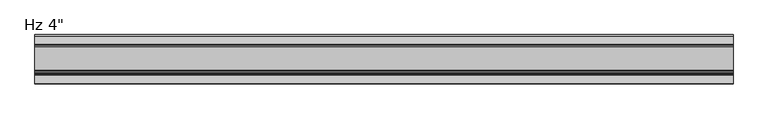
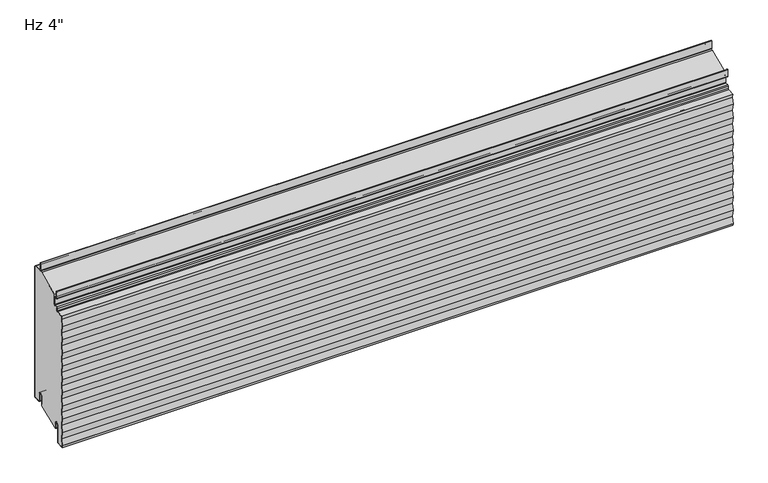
"""IFC4 building model written with IfcOpenShell, lengths in millimetres: plate geometry."""

import ifcopenshell
import ifcopenshell.guid

model = None  # the IFC model being written
_history = None  # IfcOwnerHistory: only IFC2X3 demands one
_inside = {}  # id of a spatial element -> (the spatial element, [elements in it])
_under = {}  # id of a project, library or spatial element -> (it, [spatial elements below it])
_declared = {}  # id of a project -> (the project, [libraries it declares])
_typed = {}  # id of a type object -> (the type object, [elements of that type])
_made_of = {}  # id of a material, layer set ... -> (it, [elements and type objects made of it])


def new_model(schema):
    """Start an empty IFC model of exactly this schema.

    Asked for "IFC4X3", IfcOpenShell would pick the latest addendum, in which some entities
    have other attributes; the version numbers below select the first issue.
    IFC2X3 requires an IfcOwnerHistory on every rooted entity: one is made here for all.
    """
    global model, _history
    if schema == "IFC4X3":
        model = ifcopenshell.file(schema_version=(4, 3, 0, 0))
    else:
        model = ifcopenshell.file(schema=schema)
    _inside.clear()
    _under.clear()
    _declared.clear()
    _typed.clear()
    _made_of.clear()
    _history = None
    if model.schema == "IFC2X3":
        org = make("IfcOrganization", Name="unknown")
        user = make(
            "IfcPersonAndOrganization",
            ThePerson=make("IfcPerson", FamilyName="unknown"),
            TheOrganization=org,
        )
        app = make(
            "IfcApplication",
            ApplicationDeveloper=org,
            Version="unknown",
            ApplicationFullName="unknown",
            ApplicationIdentifier="unknown",
        )
        _history = make(
            "IfcOwnerHistory",
            OwningUser=user,
            OwningApplication=app,
            ChangeAction="ADDED",
            CreationDate=0,
        )
    return model


def make(cls, **values):
    """One entity of the class cls with the attributes given. An attribute that is None is left unset."""
    return model.create_entity(
        cls, **{name: value for name, value in values.items() if value is not None}
    )


def rooted(cls, **values):
    """An entity with a GlobalId (a new one), such as an element, a storey or a relation."""
    return make(cls, GlobalId=ifcopenshell.guid.new(), OwnerHistory=_history, **values)


def si_unit(unit_type, name, prefix=None):
    """IfcSIUnit, for example si_unit("LENGTHUNIT", "METRE", prefix="MILLI")."""
    return make("IfcSIUnit", UnitType=unit_type, Prefix=prefix, Name=name)


def assignment(units):
    """IfcUnitAssignment: the units of a project."""
    return None if units is None else make("IfcUnitAssignment", Units=units)


def point(xyz):
    """IfcCartesianPoint."""
    return None if xyz is None else make("IfcCartesianPoint", Coordinates=xyz)


def direction(xyz):
    """IfcDirection."""
    return None if xyz is None else make("IfcDirection", DirectionRatios=xyz)


def frame(location, z_axis=None, x_axis=None):
    """IfcAxis2Placement3D, a coordinate frame: its origin and axes. An axis left out is left unset."""
    return make(
        "IfcAxis2Placement3D",
        Location=point(location),
        Axis=direction(z_axis),
        RefDirection=direction(x_axis),
    )


def frame_2d(location, x_axis=None):
    """IfcAxis2Placement2D, a coordinate frame in the plane: its origin and x axis."""
    return make(
        "IfcAxis2Placement2D", Location=point(location), RefDirection=direction(x_axis)
    )


def origin():
    """The frame at (0, 0, 0) with its axes left unset."""
    return frame((0.0, 0.0, 0.0))


def place(relative_to, where):
    """IfcLocalPlacement: puts the frame where relative to a parent placement (None: the world)."""
    return make(
        "IfcLocalPlacement", PlacementRelTo=relative_to, RelativePlacement=where
    )


def context(
    kind, dimensions, precision=None, world=None, true_north=None, identifier=None
):
    """IfcGeometricRepresentationContext, for example the 3D "Model" context."""
    return make(
        "IfcGeometricRepresentationContext",
        ContextIdentifier=identifier,
        ContextType=kind,
        CoordinateSpaceDimension=dimensions,
        Precision=precision,
        WorldCoordinateSystem=world,
        TrueNorth=true_north,
    )


def project(units=None, contexts=None):
    """IfcProject with its units and contexts."""
    return rooted(
        "IfcProject",
        Name="project",
        RepresentationContexts=contexts,
        UnitsInContext=assignment(units),
    )


def spatial(cls, under=None, at=None, **own):
    """A site, building, storey or space (cls), placed at a placement, below another one or the project."""
    s = rooted(cls, ObjectPlacement=at, **own)
    if under is not None:
        _under.setdefault(under.id(), (under, []))[1].append(s)
    return s


def polyline(points):
    """IfcPolyline through the points."""
    return make("IfcPolyline", Points=[point(p) for p in points])


def circle_curve(where, radius):
    """IfcCircle in the frame where."""
    return make("IfcCircle", Position=where, Radius=radius)


def ellipse_curve(where, semi_axis1, semi_axis2):
    """IfcEllipse in the frame where."""
    return make(
        "IfcEllipse", Position=where, SemiAxis1=semi_axis1, SemiAxis2=semi_axis2
    )


def trimmed(basis, trim1, trim2, sense, master):
    """IfcTrimmedCurve: the piece of a basis curve between two trims."""
    return make(
        "IfcTrimmedCurve",
        BasisCurve=basis,
        Trim1=trim1,
        Trim2=trim2,
        SenseAgreement=sense,
        MasterRepresentation=master,
    )


def segment(curve, same_sense, transition):
    """IfcCompositeCurveSegment."""
    return make(
        "IfcCompositeCurveSegment",
        Transition=transition,
        SameSense=same_sense,
        ParentCurve=curve,
    )


def composite_curve(segments, self_intersect=None):
    """IfcCompositeCurve: segments joined end to end."""
    return make("IfcCompositeCurve", Segments=segments, SelfIntersect=self_intersect)


def outline(outer, holes=None, kind="AREA"):
    """IfcArbitraryClosedProfileDef: a profile drawn as a closed curve; with holes, ...WithVoids."""
    if holes is None:
        return make("IfcArbitraryClosedProfileDef", ProfileType=kind, OuterCurve=outer)
    return make(
        "IfcArbitraryProfileDefWithVoids",
        ProfileType=kind,
        OuterCurve=outer,
        InnerCurves=holes,
    )


def extrude(swept, where, along, depth):
    """IfcExtrudedAreaSolid: the profile swept, set in the frame where, extruded along a direction by depth."""
    return make(
        "IfcExtrudedAreaSolid",
        SweptArea=swept,
        Position=where,
        ExtrudedDirection=direction(along),
        Depth=depth,
    )


def shape(context_of_items, identifier, shape_type, items):
    """IfcShapeRepresentation: the items that make up one representation, for example the "Body"."""
    return make(
        "IfcShapeRepresentation",
        ContextOfItems=context_of_items,
        RepresentationIdentifier=identifier,
        RepresentationType=shape_type,
        Items=items,
    )


def source(mapping_origin, context_of_items, identifier, shape_type, items):
    """IfcRepresentationMap: a shape defined once, which mapped items show again and again."""
    return make(
        "IfcRepresentationMap",
        MappingOrigin=mapping_origin,
        MappedRepresentation=shape(context_of_items, identifier, shape_type, items),
    )


def transform(
    local_origin,
    x_axis=None,
    y_axis=None,
    z_axis=None,
    scale=None,
    scale2=None,
    scale3=None,
    uniform=True,
):
    """IfcCartesianTransformationOperator3D, or its non-uniform kind. x_axis, y_axis, z_axis: its Axis1, 2, 3."""
    if uniform:
        return make(
            "IfcCartesianTransformationOperator3D",
            Axis1=direction(x_axis),
            Axis2=direction(y_axis),
            LocalOrigin=point(local_origin),
            Scale=scale,
            Axis3=direction(z_axis),
        )
    return make(
        "IfcCartesianTransformationOperator3DnonUniform",
        Axis1=direction(x_axis),
        Axis2=direction(y_axis),
        LocalOrigin=point(local_origin),
        Scale=scale,
        Axis3=direction(z_axis),
        Scale2=scale2,
        Scale3=scale3,
    )


def mapped(mapping_source, mapping_target):
    """IfcMappedItem: shows the shape of a source again, moved by a transform."""
    return make(
        "IfcMappedItem", MappingSource=mapping_source, MappingTarget=mapping_target
    )


def made_of(thing, what):
    """Note that an element or type object is made of a material, layer set ...; save() writes the relation."""
    if what is not None:
        _made_of.setdefault(what.id(), (what, []))[1].append(thing)
    return thing


def element(
    cls,
    number,
    at=None,
    inside=None,
    cuts=None,
    type_object=None,
    material=None,
    context=None,
    identifier="Body",
    shape_type=None,
    held_by="IfcProductDefinitionShape",
    body=None,
    shapes=None,
    **own,
):
    """One element of the class cls, such as IfcWall. Its Tag is "e" and its number.

    at: its placement. inside: the storey or other place that contains it. cuts: it is an
    opening in that element (IfcRelVoidsElement). A single representation is given by context,
    identifier, shape_type and body (its items); several are given by shapes. held_by: the class
    of the entity that holds the representations. save() writes the other relations.
    """
    e = rooted(cls, Tag="e%d" % number, ObjectPlacement=at, **own)
    if body is not None:
        shapes = [shape(context, identifier, shape_type, body)]
    if shapes is not None:
        e.Representation = make(held_by, Representations=shapes)
    if inside is not None:
        _inside.setdefault(inside.id(), (inside, []))[1].append(e)
    if cuts is not None:
        rooted(
            "IfcRelVoidsElement", RelatingBuildingElement=cuts, RelatedOpeningElement=e
        )
    if type_object is not None:
        _typed.setdefault(type_object.id(), (type_object, []))[1].append(e)
    return made_of(e, material)


def aggregate(whole, parts):
    """IfcRelAggregates: a whole, such as a stair, and the parts it consists of."""
    return rooted("IfcRelAggregates", RelatingObject=whole, RelatedObjects=parts)


def save(model, path):
    """Write the relations noted so far, then the file.

    IfcRelAggregates (storeys below a building ...), IfcRelContainedInSpatialStructure (elements
    in a storey), IfcRelDefinesByType, IfcRelAssociatesMaterial and IfcRelDeclares: one each for
    every whole, place, type object, material and project.
    """
    for whole, parts in _under.values():
        aggregate(whole, parts)
    for where, things in _inside.values():
        rooted(
            "IfcRelContainedInSpatialStructure",
            RelatedElements=things,
            RelatingStructure=where,
        )
    for kind, things in _typed.values():
        rooted("IfcRelDefinesByType", RelatedObjects=things, RelatingType=kind)
    for what, things in _made_of.values():
        rooted("IfcRelAssociatesMaterial", RelatedObjects=things, RelatingMaterial=what)
    for by, libraries in _declared.values():
        rooted("IfcRelDeclares", RelatingContext=by, RelatedDefinitions=libraries)
    model.write(path)


def plane_surface(at):
    """IfcPlane: the flat surface through the origin of the frame at, square to its z axis."""
    return make("IfcPlane", Position=at)


def cylinder_surface(at, radius):
    """IfcCylindricalSurface: all points at the distance radius from the z axis of the frame at."""
    return make("IfcCylindricalSurface", Position=at, Radius=radius)


def revolved_surface(curve, axis_point, axis_direction):
    """IfcSurfaceOfRevolution: the curve turned about the line through axis_point along axis_direction."""
    return make(
        "IfcSurfaceOfRevolution",
        SweptCurve=make("IfcArbitraryOpenProfileDef", ProfileType="CURVE", Curve=curve),
        AxisPosition=make("IfcAxis1Placement", Location=point(axis_point), Axis=direction(axis_direction)),
    )


def extruded_surface(curve, direction_of_extrusion, depth):
    """IfcSurfaceOfLinearExtrusion: the curve pushed along a direction by depth."""
    return make(
        "IfcSurfaceOfLinearExtrusion",
        SweptCurve=make("IfcArbitraryOpenProfileDef", ProfileType="CURVE", Curve=curve),
        ExtrudedDirection=direction(direction_of_extrusion),
        Depth=depth,
    )


def advanced_brep(points, edges, surfaces, faces):
    """IfcAdvancedBrep: a solid bounded by faces that lie on surfaces and meet in shared edges.

    An edge is (start, end): straight between two places in points (the first is 0);
    or (start, end, curve); or (start, end, curve, False) where it runs against its curve.
    A face is (place in surfaces, loops), or (place, loops, False) where it looks against
    its surface's normal. A loop lists edges by number (the first is 1), with a minus sign
    where the edge is run from its end to its start. The first loop is the outer one.
    """
    corners = [point(p) for p in points]
    vertices = [make("IfcVertexPoint", VertexGeometry=c) for c in corners]
    made = []
    for start, end, *more in edges:
        made.append(
            make(
                "IfcEdgeCurve",
                EdgeStart=vertices[start],
                EdgeEnd=vertices[end],
                EdgeGeometry=more[0] if more else make("IfcPolyline", Points=[corners[start], corners[end]]),
                SameSense=more[1] if len(more) > 1 else True,
            )
        )
    hull = []
    for where, loops, *sense in faces:
        bounds = []
        for j, loop in enumerate(loops):
            ring = [make("IfcOrientedEdge", EdgeElement=made[abs(k) - 1], Orientation=k > 0) for k in loop]
            bounds.append(
                make(
                    "IfcFaceOuterBound" if j == 0 else "IfcFaceBound",
                    Bound=make("IfcEdgeLoop", EdgeList=ring),
                    Orientation=True,
                )
            )
        hull.append(make("IfcAdvancedFace", Bounds=bounds, FaceSurface=surfaces[where], SameSense=sense[0] if sense else True))
    return make("IfcAdvancedBrep", Outer=make("IfcClosedShell", CfsFaces=hull))


def plate_86af3162(model_context):
    return source(origin(), model_context, "Body", "SolidModel", [
        extrude(outline(composite_curve([segment(trimmed(circle_curve(frame_2d((-21.43125, 19.05)), 4.96875), [point((-16.4625, 19.05))], [point((-26.4, 19.05))], True, "CARTESIAN"), True, "CONTINUOUS"), segment(polyline([(-26.4, 19.05), (-26.4, -3.1323422), (-74.6157227, -23.01875), (-76.2, -23.01875), (-76.2, -13.5080174), (-76.99375, -13.5080174), (-76.7875, -11.9205174)]), True, "CONTINUOUS"), segment(trimmed(circle_curve(frame_2d((-81.75625, -11.9205174)), 4.96875), [point((-76.7875, -11.9205174))], [point((-86.725, -11.9205174))], True, "CARTESIAN"), True, "CONTINUOUS"), segment(polyline([(-86.725, -11.9205174), (-86.725, -50.1038221)]), True, "CONTINUOUS"), segment(trimmed(circle_curve(frame_2d((-88.10625, -50.1038221)), 1.38125), [point((-86.725, -50.1038221))], [point((-88.033961, -51.4831791))], False, "CARTESIAN"), True, "CONTINUOUS"), segment(polyline([(-88.033961, -51.4831791), (-99.146461, -52.0655606)]), True, "CONTINUOUS"), segment(trimmed(circle_curve(frame_2d((-99.21875, -50.6862035)), 1.38125), [point((-99.146461, -52.0655606))], [point((-100.5310452, -51.1171708))], False, "CARTESIAN"), True, "CONTINUOUS"), segment(polyline([(-100.5310452, -51.1171708), (-100.8936034, -48.8511825), (-98.4552034, -33.6111825), (-100.8936034, -18.3711825), (-98.4552034, -3.1311825), (-100.8936034, 12.1088175), (-98.4552034, 27.3488175), (-100.8936034, 42.5888175), (-98.4552034, 57.8288175), (-100.8936034, 73.0688175), (-98.4552034, 88.3088175), (-100.8936034, 103.5488175), (-98.4552034, 118.7888175), (-100.8936034, 134.0288175), (-98.4552034, 149.2688175), (-100.8936034, 164.5088175), (-98.4552034, 179.7488175), (-100.8936034, 194.9888175), (-98.4552034, 210.2288175), (-100.8936034, 225.4688175), (-98.4552034, 240.7088175), (-99.5475009, 247.5356771), (-85.5895807, 248.2671807)]), True, "CONTINUOUS"), segment(trimmed(circle_curve(frame_2d((-85.725, 250.8511347)), 2.5875), [point((-85.5895807, 248.2671807))], [point((-83.1375, 250.8511347))], True, "CARTESIAN"), True, "CONTINUOUS"), segment(polyline([(-83.1375, 250.8511347), (-83.1375, 255.4824411)]), True, "CONTINUOUS"), segment(trimmed(circle_curve(frame_2d((-81.75625, 255.4824411)), 1.38125), [point((-83.1375, 255.4824411))], [point((-81.828539, 256.8617981))], False, "CARTESIAN"), True, "CONTINUOUS"), segment(polyline([(-81.828539, 256.8617981), (-76.0645807, 257.1638744)]), True, "CONTINUOUS"), segment(trimmed(circle_curve(frame_2d((-76.2, 259.7478283)), 2.5875), [point((-76.0645807, 257.1638744))], [point((-73.6125, 259.7478283))], True, "CARTESIAN"), True, "CONTINUOUS"), segment(polyline([(-73.6125, 259.7478283), (-73.6125, 282.1892934), (-24.9057308, 303.00625), (-2.38125, 303.00625)]), True, "CONTINUOUS"), segment(trimmed(circle_curve(frame_2d((-2.38125, 301.625)), 1.38125), [point((-2.38125, 303.00625))], [point((-1.0, 301.625))], False, "CARTESIAN"), True, "CONTINUOUS"), segment(polyline([(-1.0, 301.625), (-1.0, 3.175)]), True, "CONTINUOUS"), segment(trimmed(circle_curve(frame_2d((-2.38125, 3.175)), 1.38125), [point((-1.0, 3.175))], [point((-2.38125, 1.79375))], False, "CARTESIAN"), True, "CONTINUOUS"), segment(polyline([(-2.38125, 1.79375), (-15.08125, 1.79375)]), True, "CONTINUOUS"), segment(trimmed(circle_curve(frame_2d((-15.08125, 3.175)), 1.38125), [point((-15.08125, 1.79375))], [point((-16.4625, 3.175))], False, "CARTESIAN"), True, "CONTINUOUS"), segment(polyline([(-16.4625, 3.175), (-16.4625, 19.05)]), True, "CONTINUOUS")], self_intersect=False)), frame((-730.0, 0.0, 0.0), z_axis=(1.0, 0.0, 0.0), x_axis=(0.0, 1.0, 0.0)), (0.0, 0.0, 1.0), 1460.0),
        extrude(outline(composite_curve([segment(polyline([(-25.4, 0.79375), (-26.4, 0.79375), (-26.4, 19.05)]), True, "CONTINUOUS"), segment(trimmed(circle_curve(frame_2d((-21.43125, 19.05)), 4.96875), [point((-26.4, 19.05))], [point((-16.4625, 19.05))], False, "CARTESIAN"), True, "CONTINUOUS"), segment(polyline([(-16.4625, 19.05), (-16.4625, 3.175)]), True, "CONTINUOUS"), segment(trimmed(circle_curve(frame_2d((-15.08125, 3.175)), 1.38125), [point((-16.4625, 3.175))], [point((-15.08125, 1.79375))], True, "CARTESIAN"), True, "CONTINUOUS"), segment(polyline([(-15.08125, 1.79375), (-2.38125, 1.79375)]), True, "CONTINUOUS"), segment(trimmed(circle_curve(frame_2d((-2.38125, 3.175)), 1.38125), [point((-2.38125, 1.79375))], [point((-1.0, 3.175))], True, "CARTESIAN"), True, "CONTINUOUS"), segment(polyline([(-1.0, 3.175), (-1.0, 301.625)]), True, "CONTINUOUS"), segment(trimmed(circle_curve(frame_2d((-2.38125, 301.625)), 1.38125), [point((-1.0, 301.625))], [point((-2.38125, 303.00625))], True, "CARTESIAN"), True, "CONTINUOUS"), segment(polyline([(-2.38125, 303.00625), (-19.446875, 303.00625)]), True, "CONTINUOUS"), segment(trimmed(circle_curve(frame_2d((-19.446875, 305.59375)), 2.5875), [point((-19.446875, 303.00625))], [point((-22.034375, 305.59375))], False, "CARTESIAN"), True, "CONTINUOUS"), segment(polyline([(-22.034375, 305.59375), (-22.034375, 323.05625), (-21.034375, 323.05625), (-21.034375, 305.59375)]), True, "CONTINUOUS"), segment(trimmed(circle_curve(frame_2d((-19.446875, 305.59375)), 1.5875), [point((-21.034375, 305.59375))], [point((-19.446875, 304.00625))], True, "CARTESIAN"), True, "CONTINUOUS"), segment(polyline([(-19.446875, 304.00625), (-2.38125, 304.00625)]), True, "CONTINUOUS"), segment(trimmed(circle_curve(frame_2d((-2.38125, 301.625)), 2.38125), [point((-2.38125, 304.00625))], [point((0.0, 301.625))], False, "CARTESIAN"), True, "CONTINUOUS"), segment(polyline([(0.0, 301.625), (0.0, 3.175)]), True, "CONTINUOUS"), segment(trimmed(circle_curve(frame_2d((-2.38125, 3.175)), 2.38125), [point((0.0, 3.175))], [point((-2.38125, 0.79375))], False, "CARTESIAN"), True, "CONTINUOUS"), segment(polyline([(-2.38125, 0.79375), (-15.08125, 0.79375)]), True, "CONTINUOUS"), segment(trimmed(circle_curve(frame_2d((-15.08125, 3.175)), 2.38125), [point((-15.08125, 0.79375))], [point((-17.4625, 3.175))], False, "CARTESIAN"), True, "CONTINUOUS"), segment(polyline([(-17.4625, 3.175), (-17.4625, 19.05)]), True, "CONTINUOUS"), segment(trimmed(circle_curve(frame_2d((-21.43125, 19.05)), 3.96875), [point((-17.4625, 19.05))], [point((-25.4, 19.05))], True, "CARTESIAN"), True, "CONTINUOUS"), segment(polyline([(-25.4, 19.05), (-25.4, 0.79375)]), True, "CONTINUOUS")], self_intersect=False)), frame((-730.0, 0.0, 0.0), z_axis=(1.0, 0.0, 0.0), x_axis=(0.0, 1.0, 0.0)), (0.0, 0.0, 1.0), 1460.0),
        advanced_brep(
        [(-730.0, -76.2, -23.2314549), (-730.0, -77.7875, -23.2314549), (-730.0, -77.7875, -11.9205174), (-730.0, -85.725, -11.9205174), (-730.0, -85.725, -50.1038221), (-730.0, -87.981625, -52.4818086), (-730.0, -102.1543553, -53.22457), (-730.0, -102.8509395, -48.8709186), (-730.0, -100.4125395, -33.6309186), (-730.0, -102.8509395, -18.3909186), (-730.0, -100.4125395, -3.1509186), (-730.0, -102.8509395, 12.0890814), (-730.0, -100.4125395, 27.3290814), (-730.0, -102.8509395, 42.5690814), (-730.0, -100.4125395, 57.8090814), (-730.0, -102.8509395, 73.0490814), (-730.0, -100.4125395, 88.2890814), (-730.0, -102.8509395, 103.5290814), (-730.0, -100.4125395, 118.7690814), (-730.0, -102.8509395, 134.0090814), (-730.0, -100.4125395, 149.2490814), (-730.0, -102.8509395, 164.4890814), (-730.0, -100.4125395, 179.7290814), (-730.0, -102.8509395, 194.9690814), (-730.0, -100.4125395, 210.2090814), (-730.0, -102.8347341, 225.3477976), (-730.0, -100.4125395, 240.4865139), (-730.0, -101.6827208, 248.4251473), (-730.0, -85.6419167, 249.2658103), (-730.0, -84.1375, 250.8511347), (-730.0, -84.1375, 255.4824411), (-730.0, -81.880875, 257.8604276), (-730.0, -76.1169167, 258.1625039), (-730.0, -74.6125, 259.7478283), (-730.0, -74.6125, 274.6232326), (-730.0, -76.2, 276.2107326), (-730.0, -80.3671875, 276.2107326), (-730.0, -82.7484375, 278.5919826), (-730.0, -82.7484375, 293.0836032), (-730.0, -80.9546875, 293.0836032), (-730.0, -80.9546875, 283.3544826), (-730.0, -81.7484375, 283.3544826), (-730.0, -81.7484375, 278.5919826), (-730.0, -80.3671875, 277.2107326), (-730.0, -76.2, 277.2107326), (-730.0, -73.6125, 274.6232326), (-730.0, -73.6125, 259.7478283), (-730.0, -76.0645807, 257.1638744), (-730.0, -81.828539, 256.8617981), (-730.0, -83.1375, 255.4824411), (-730.0, -83.1375, 250.8511347), (-730.0, -85.5895807, 248.2671807), (-730.0, -100.5195357, 247.4847349), (-730.0, -99.3998204, 240.4865139), (-730.0, -101.822015, 225.3477976), (-730.0, -99.3998204, 210.2090814), (-730.0, -101.8382204, 194.9690814), (-730.0, -99.3998204, 179.7290814), (-730.0, -101.8382204, 164.4890814), (-730.0, -99.3998204, 149.2490814), (-730.0, -101.8382204, 134.0090814), (-730.0, -99.3998204, 118.7690814), (-730.0, -101.8382204, 103.5290814), (-730.0, -99.3998204, 88.2890814), (-730.0, -101.8382204, 73.0490814), (-730.0, -99.3998204, 57.8090814), (-730.0, -101.8382204, 42.5690814), (-730.0, -99.3998204, 27.3290814), (-730.0, -101.8382204, 12.0890814), (-730.0, -99.3998204, -3.1509186), (-730.0, -101.8382204, -18.3909186), (-730.0, -99.3998204, -33.6309186), (-730.0, -101.8382204, -48.8709186), (-730.0, -101.3089447, -52.1788915), (-730.0, -88.033961, -51.4831791), (-730.0, -86.725, -50.1038221), (-730.0, -86.725, -11.9205174), (-730.0, -76.7875, -11.9205174), (-730.0, -76.99375, -13.5080174), (-730.0, -76.2, -13.5080174), (730.0, -76.2, -23.2314549), (730.0, -76.2, -13.5080174), (730.0, -76.99375, -13.5080174), (730.0, -76.7875, -11.9205174), (730.0, -86.725, -11.9205174), (730.0, -86.725, -50.1038221), (730.0, -88.033961, -51.4831791), (730.0, -101.3089447, -52.1788915), (730.0, -101.8382204, -48.8709186), (730.0, -99.3998204, -33.6309186), (730.0, -101.8382204, -18.3909186), (730.0, -99.3998204, -3.1509186), (730.0, -101.8382204, 12.0890814), (730.0, -99.3998204, 27.3290814), (730.0, -101.8382204, 42.5690814), (730.0, -99.3998204, 57.8090814), (730.0, -101.8382204, 73.0490814), (730.0, -99.3998204, 88.2890814), (730.0, -101.8382204, 103.5290814), (730.0, -99.3998204, 118.7690814), (730.0, -101.8382204, 134.0090814), (730.0, -99.3998204, 149.2490814), (730.0, -101.8382204, 164.4890814), (730.0, -99.3998204, 179.7290814), (730.0, -101.8382204, 194.9690814), (730.0, -99.3998204, 210.2090814), (730.0, -101.822015, 225.3477976), (730.0, -99.3998204, 240.4865139), (730.0, -100.5195357, 247.4847349), (730.0, -85.5895807, 248.2671807), (730.0, -83.1375, 250.8511347), (730.0, -83.1375, 255.4824411), (730.0, -81.828539, 256.8617981), (730.0, -76.0645807, 257.1638744), (730.0, -73.6125, 259.7478283), (730.0, -73.6125, 274.6232326), (730.0, -76.2, 277.2107326), (730.0, -80.3671875, 277.2107326), (730.0, -81.7484375, 278.5919826), (730.0, -81.7484375, 283.3544826), (730.0, -80.9546875, 283.3544826), (730.0, -80.9546875, 293.0836032), (730.0, -82.7484375, 293.0836032), (730.0, -82.7484375, 278.5919826), (730.0, -80.3671875, 276.2107326), (730.0, -76.2, 276.2107326), (730.0, -74.6125, 274.6232326), (730.0, -74.6125, 259.7478283), (730.0, -76.1169167, 258.1625039), (730.0, -81.880875, 257.8604276), (730.0, -84.1375, 255.4824411), (730.0, -84.1375, 250.8511347), (730.0, -85.6419167, 249.2658103), (730.0, -101.6827208, 248.4251473), (730.0, -100.4125395, 240.4865139), (730.0, -102.8347341, 225.3477976), (730.0, -100.4125395, 210.2090814), (730.0, -102.8509395, 194.9690814), (730.0, -100.4125395, 179.7290814), (730.0, -102.8509395, 164.4890814), (730.0, -100.4125395, 149.2490814), (730.0, -102.8509395, 134.0090814), (730.0, -100.4125395, 118.7690814), (730.0, -102.8509395, 103.5290814), (730.0, -100.4125395, 88.2890814), (730.0, -102.8509395, 73.0490814), (730.0, -100.4125395, 57.8090814), (730.0, -102.8509395, 42.5690814), (730.0, -100.4125395, 27.3290814), (730.0, -102.8509395, 12.0890814), (730.0, -100.4125395, -3.1509186), (730.0, -102.8509395, -18.3909186), (730.0, -100.4125395, -33.6309186), (730.0, -102.8509395, -48.8709186), (730.0, -102.1543553, -53.22457), (730.0, -87.981625, -52.4818086), (730.0, -85.725, -50.1038221), (730.0, -85.725, -11.9205174), (730.0, -77.7875, -11.9205174), (730.0, -77.7875, -23.2314549)],
        [
            (0, 1, circle_curve(frame((-730.0, -76.99375, -23.2314549), z_axis=(-1.0, 0.0, 0.0), x_axis=(0.0, 0.0, 1.0)), 0.79375)),
            (1, 2),
            (2, 3, circle_curve(frame((-730.0, -81.75625, -11.9205174), z_axis=(1.0, 0.0, 0.0), x_axis=(0.0, 0.0, 1.0)), 3.96875)),
            (3, 4),
            (4, 5, circle_curve(frame((-730.0, -88.10625, -50.1038221), z_axis=(-1.0, 0.0, 0.0), x_axis=(0.0, 0.0, 1.0)), 2.38125)),
            (5, 6),
            (6, 7),
            (7, 8),
            (8, 9),
            (9, 10),
            (10, 11),
            (11, 12),
            (12, 13),
            (13, 14),
            (14, 15),
            (15, 16),
            (16, 17),
            (17, 18),
            (18, 19),
            (19, 20),
            (20, 21),
            (21, 22),
            (22, 23),
            (23, 24),
            (24, 25),
            (25, 26),
            (26, 27),
            (27, 28),
            (28, 29, circle_curve(frame((-730.0, -85.725, 250.8511347), z_axis=(1.0, 0.0, 0.0), x_axis=(0.0, 0.0, 1.0)), 1.5875)),
            (29, 30),
            (30, 31, circle_curve(frame((-730.0, -81.75625, 255.4824411), z_axis=(-1.0, 0.0, 0.0), x_axis=(0.0, 0.0, 1.0)), 2.38125)),
            (31, 32),
            (32, 33, circle_curve(frame((-730.0, -76.2, 259.7478283), z_axis=(1.0, 0.0, 0.0), x_axis=(0.0, 0.0, 1.0)), 1.5875)),
            (33, 34),
            (34, 35, circle_curve(frame((-730.0, -76.2, 274.6232326), z_axis=(1.0, 0.0, 0.0), x_axis=(0.0, 0.0, 1.0)), 1.5875)),
            (35, 36),
            (36, 37, circle_curve(frame((-730.0, -80.3671875, 278.5919826), z_axis=(-1.0, 0.0, 0.0), x_axis=(0.0, 0.0, 1.0)), 2.38125)),
            (37, 38),
            (38, 39, ellipse_curve(frame((-730.0, -81.8515625, 293.0836032), z_axis=(-1.0, 0.0, 0.0), x_axis=(0.0, 1.0, 0.0)), 0.896875, 0.7852275)),
            (39, 40),
            (40, 41),
            (41, 42),
            (42, 43, circle_curve(frame((-730.0, -80.3671875, 278.5919826), z_axis=(1.0, 0.0, 0.0), x_axis=(0.0, 0.0, 1.0)), 1.38125)),
            (43, 44),
            (44, 45, circle_curve(frame((-730.0, -76.2, 274.6232326), z_axis=(-1.0, 0.0, 0.0), x_axis=(0.0, 0.0, 1.0)), 2.5875)),
            (45, 46),
            (46, 47, circle_curve(frame((-730.0, -76.2, 259.7478283), z_axis=(-1.0, 0.0, 0.0), x_axis=(0.0, 0.0, 1.0)), 2.5875)),
            (47, 48),
            (48, 49, circle_curve(frame((-730.0, -81.75625, 255.4824411), z_axis=(1.0, 0.0, 0.0), x_axis=(0.0, 0.0, 1.0)), 1.38125)),
            (49, 50),
            (50, 51, circle_curve(frame((-730.0, -85.725, 250.8511347), z_axis=(-1.0, 0.0, 0.0), x_axis=(0.0, 0.0, 1.0)), 2.5875)),
            (51, 52),
            (52, 53),
            (53, 54),
            (54, 55),
            (55, 56),
            (56, 57),
            (57, 58),
            (58, 59),
            (59, 60),
            (60, 61),
            (61, 62),
            (62, 63),
            (63, 64),
            (64, 65),
            (65, 66),
            (66, 67),
            (67, 68),
            (68, 69),
            (69, 70),
            (70, 71),
            (71, 72),
            (72, 73),
            (73, 74),
            (74, 75, circle_curve(frame((-730.0, -88.10625, -50.1038221), z_axis=(1.0, 0.0, 0.0), x_axis=(0.0, 0.0, 1.0)), 1.38125)),
            (75, 76),
            (76, 77, circle_curve(frame((-730.0, -81.75625, -11.9205174), z_axis=(-1.0, 0.0, 0.0), x_axis=(0.0, 0.0, 1.0)), 4.96875)),
            (77, 78),
            (78, 79),
            (79, 0),
            (80, 81),
            (81, 82),
            (82, 83),
            (83, 84, circle_curve(frame((730.0, -81.75625, -11.9205174), z_axis=(1.0, 0.0, 0.0), x_axis=(0.0, 0.0, 1.0)), 4.96875)),
            (84, 85),
            (85, 86, circle_curve(frame((730.0, -88.10625, -50.1038221), z_axis=(-1.0, 0.0, 0.0), x_axis=(0.0, 0.0, 1.0)), 1.38125)),
            (86, 87),
            (87, 88),
            (88, 89),
            (89, 90),
            (90, 91),
            (91, 92),
            (92, 93),
            (93, 94),
            (94, 95),
            (95, 96),
            (96, 97),
            (97, 98),
            (98, 99),
            (99, 100),
            (100, 101),
            (101, 102),
            (102, 103),
            (103, 104),
            (104, 105),
            (105, 106),
            (106, 107),
            (107, 108),
            (108, 109),
            (109, 110, circle_curve(frame((730.0, -85.725, 250.8511347), z_axis=(1.0, 0.0, 0.0), x_axis=(0.0, 0.0, 1.0)), 2.5875)),
            (110, 111),
            (111, 112, circle_curve(frame((730.0, -81.75625, 255.4824411), z_axis=(-1.0, 0.0, 0.0), x_axis=(0.0, 0.0, 1.0)), 1.38125)),
            (112, 113),
            (113, 114, circle_curve(frame((730.0, -76.2, 259.7478283), z_axis=(1.0, 0.0, 0.0), x_axis=(0.0, 0.0, 1.0)), 2.5875)),
            (114, 115),
            (115, 116, circle_curve(frame((730.0, -76.2, 274.6232326), z_axis=(1.0, 0.0, 0.0), x_axis=(0.0, 0.0, 1.0)), 2.5875)),
            (116, 117),
            (117, 118, circle_curve(frame((730.0, -80.3671875, 278.5919826), z_axis=(-1.0, 0.0, 0.0), x_axis=(0.0, 0.0, 1.0)), 1.38125)),
            (118, 119),
            (119, 120),
            (120, 121),
            (121, 122, ellipse_curve(frame((730.0, -81.8515625, 293.0836032), z_axis=(1.0, 0.0, 0.0), x_axis=(0.0, 1.0, 0.0)), 0.896875, 0.7852275)),
            (122, 123),
            (123, 124, circle_curve(frame((730.0, -80.3671875, 278.5919826), z_axis=(1.0, 0.0, 0.0), x_axis=(0.0, 0.0, 1.0)), 2.38125)),
            (124, 125),
            (125, 126, circle_curve(frame((730.0, -76.2, 274.6232326), z_axis=(-1.0, 0.0, 0.0), x_axis=(0.0, 0.0, 1.0)), 1.5875)),
            (126, 127),
            (127, 128, circle_curve(frame((730.0, -76.2, 259.7478283), z_axis=(-1.0, 0.0, 0.0), x_axis=(0.0, 0.0, 1.0)), 1.5875)),
            (128, 129),
            (129, 130, circle_curve(frame((730.0, -81.75625, 255.4824411), z_axis=(1.0, 0.0, 0.0), x_axis=(0.0, 0.0, 1.0)), 2.38125)),
            (130, 131),
            (131, 132, circle_curve(frame((730.0, -85.725, 250.8511347), z_axis=(-1.0, 0.0, 0.0), x_axis=(0.0, 0.0, 1.0)), 1.5875)),
            (132, 133),
            (133, 134),
            (134, 135),
            (135, 136),
            (136, 137),
            (137, 138),
            (138, 139),
            (139, 140),
            (140, 141),
            (141, 142),
            (142, 143),
            (143, 144),
            (144, 145),
            (145, 146),
            (146, 147),
            (147, 148),
            (148, 149),
            (149, 150),
            (150, 151),
            (151, 152),
            (152, 153),
            (153, 154),
            (154, 155),
            (155, 156, circle_curve(frame((730.0, -88.10625, -50.1038221), z_axis=(1.0, 0.0, 0.0), x_axis=(0.0, 0.0, 1.0)), 2.38125)),
            (156, 157),
            (157, 158, circle_curve(frame((730.0, -81.75625, -11.9205174), z_axis=(-1.0, 0.0, 0.0), x_axis=(0.0, 0.0, 1.0)), 3.96875)),
            (158, 159),
            (159, 80, circle_curve(frame((730.0, -76.99375, -23.2314549), z_axis=(1.0, 0.0, 0.0), x_axis=(0.0, 0.0, 1.0)), 0.79375)),
            (58, 102),
            (101, 59),
            (100, 60),
            (99, 61),
            (73, 87),
            (86, 74),
            (85, 75),
            (84, 76),
            (83, 77),
            (78, 82),
            (81, 79),
            (40, 120),
            (119, 41),
            (39, 121),
            (38, 122),
            (27, 133),
            (132, 28),
            (51, 109),
            (108, 52),
            (24, 136),
            (135, 25),
            (54, 106),
            (105, 55),
            (104, 56),
            (103, 57),
            (21, 139),
            (138, 22),
            (137, 23),
            (26, 134),
            (107, 53),
            (20, 140),
            (18, 142),
            (141, 19),
            (16, 144),
            (143, 17),
            (14, 146),
            (145, 15),
            (12, 148),
            (147, 13),
            (10, 150),
            (149, 11),
            (8, 152),
            (151, 9),
            (6, 154),
            (153, 7),
            (71, 89),
            (88, 72),
            (69, 91),
            (90, 70),
            (67, 93),
            (92, 68),
            (65, 95),
            (94, 66),
            (63, 97),
            (96, 64),
            (98, 62),
            (50, 110),
            (48, 112),
            (111, 49),
            (46, 114),
            (113, 47),
            (42, 118),
            (117, 43),
            (44, 116),
            (115, 45),
            (37, 123),
            (35, 125),
            (124, 36),
            (33, 127),
            (126, 34),
            (31, 129),
            (128, 32),
            (29, 131),
            (130, 30),
            (5, 155),
            (3, 157),
            (156, 4),
            (1, 159),
            (158, 2),
            (80, 0),
        ],
        [
            plane_surface(frame((-730.0, -101.6, 152.4), z_axis=(-1.0, 0.0, 0.0), x_axis=(0.0, -1.0, 0.0))),
            plane_surface(frame((730.0, -101.6, 152.4), z_axis=(1.0, 0.0, 0.0), x_axis=(0.0, -1.0, 0.0))),
            plane_surface(frame((-730.0, -99.3998204, 149.2490814), z_axis=(0.0, 0.9874406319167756, 0.15799050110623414), x_axis=(1.0, 0.0, 0.0))),
            plane_surface(frame((-730.0, -101.8382204, 134.0090814), z_axis=(0.0, 0.987440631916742, -0.15799050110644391), x_axis=(1.0, 0.0, 0.0))),
            plane_surface(frame((-730.0, -99.3998204, 118.7690814), z_axis=(0.0, 0.987440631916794, 0.1579905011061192), x_axis=(1.0, 0.0, 0.0))),
            plane_surface(frame((-730.0, -88.033961, -51.4831791), z_axis=(0.0, -0.052335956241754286, 0.9986295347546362), x_axis=(1.0, 0.0, 0.0))),
            revolved_surface(polyline([(730.0, -88.10625, -48.7225721), (-730.0, -88.10625, -48.7225721)]), (-730.0, -88.10625, -50.1038221), (1.0, 0.0, 0.0)),
            plane_surface(frame((-730.0, -86.725, -11.9205174), z_axis=(0.0, -1.0, 0.0), x_axis=(1.0, 0.0, 0.0))),
            cylinder_surface(frame((-730.0, -81.75625, -11.9205174), z_axis=(-1.0, 0.0, 0.0), x_axis=(0.0, 0.0, 1.0)), 4.96875),
            plane_surface(frame((-730.0, -76.2, -13.5080174), z_axis=(0.0, 0.0, 1.0), x_axis=(1.0, 0.0, 0.0))),
            plane_surface(frame((-730.0, -76.99375, -13.5080174), z_axis=(0.0, 0.9916655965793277, -0.12883844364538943), x_axis=(1.0, 0.0, 0.0))),
            plane_surface(frame((-730.0, -81.7484375, 283.3544826), z_axis=(0.0, 0.0, -1.0), x_axis=(1.0, 0.0, 0.0))),
            plane_surface(frame((-730.0, -80.9546875, 283.3544826), z_axis=(0.0, 1.0, 0.0), x_axis=(1.0, 0.0, 0.0))),
            extruded_surface(trimmed(ellipse_curve(frame((-730.0, -81.8515625, 293.0836032), z_axis=(1.0, 0.0, 0.0), x_axis=(0.0, 1.0, 0.0)), 0.896875, 0.7852275), [point((-730.0, -80.9546875, 293.0836032))], [point((-730.0, -82.7484375, 293.0836032))], True, "CARTESIAN"), (1460.0, 0.0, 0.0), 1460.0),
            plane_surface(frame((-730.0, -85.6419167, 249.2658103), z_axis=(0.0, -0.052335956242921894, 0.998629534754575), x_axis=(1.0, 0.0, 0.0))),
            plane_surface(frame((-730.0, -100.5195357, 247.4847349), z_axis=(0.0, 0.05233595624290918, -0.9986295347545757), x_axis=(1.0, 0.0, 0.0))),
            plane_surface(frame((-730.0, -102.8347341, 225.3477976), z_axis=(0.0, -0.9874406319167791, -0.15799050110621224), x_axis=(1.0, 0.0, 0.0))),
            plane_surface(frame((-730.0, -99.3998204, 210.2090814), z_axis=(0.0, 0.9874406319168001, 0.15799050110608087), x_axis=(1.0, 0.0, 0.0))),
            plane_surface(frame((-730.0, -101.8382204, 194.9690814), z_axis=(0.0, 0.9874406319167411, -0.15799050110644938), x_axis=(1.0, 0.0, 0.0))),
            plane_surface(frame((-730.0, -99.3998204, 179.7290814), z_axis=(0.0, 0.987440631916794, 0.1579905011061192), x_axis=(1.0, 0.0, 0.0))),
            plane_surface(frame((-730.0, -101.8382204, 164.4890814), z_axis=(0.0, 0.987440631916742, -0.15799050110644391), x_axis=(1.0, 0.0, 0.0))),
            plane_surface(frame((-730.0, -100.4125395, 179.7290814), z_axis=(0.0, -0.9874406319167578, 0.15799050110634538), x_axis=(1.0, 0.0, 0.0))),
            plane_surface(frame((-730.0, -102.8509395, 194.9690814), z_axis=(0.0, -0.9874406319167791, -0.15799050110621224), x_axis=(1.0, 0.0, 0.0))),
            plane_surface(frame((-730.0, -100.4125395, 210.2090814), z_axis=(0.0, -0.9874406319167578, 0.15799050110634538), x_axis=(1.0, 0.0, 0.0))),
            plane_surface(frame((-730.0, -101.6827208, 248.4251473), z_axis=(0.0, -0.9874406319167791, -0.15799050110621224), x_axis=(1.0, 0.0, 0.0))),
            plane_surface(frame((-730.0, -99.3998204, 240.4865139), z_axis=(0.0, 0.9874406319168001, 0.15799050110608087), x_axis=(1.0, 0.0, 0.0))),
            plane_surface(frame((-730.0, -101.822015, 225.3477976), z_axis=(0.0, 0.9874406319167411, -0.15799050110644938), x_axis=(1.0, 0.0, 0.0))),
            plane_surface(frame((-730.0, -100.4125395, 240.4865139), z_axis=(0.0, -0.9874406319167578, 0.15799050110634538), x_axis=(1.0, 0.0, 0.0))),
            plane_surface(frame((-730.0, -102.8509395, 164.4890814), z_axis=(0.0, -0.9874406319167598, -0.15799050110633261), x_axis=(1.0, 0.0, 0.0))),
            plane_surface(frame((-730.0, -102.8509395, 134.0090814), z_axis=(0.0, -0.9874406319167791, -0.15799050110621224), x_axis=(1.0, 0.0, 0.0))),
            plane_surface(frame((-730.0, -100.4125395, 149.2490814), z_axis=(0.0, -0.9874406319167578, 0.15799050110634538), x_axis=(1.0, 0.0, 0.0))),
            plane_surface(frame((-730.0, -102.8509395, 103.5290814), z_axis=(0.0, -0.9874406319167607, -0.15799050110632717), x_axis=(1.0, 0.0, 0.0))),
            plane_surface(frame((-730.0, -102.8509395, 73.0490814), z_axis=(0.0, -0.9874406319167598, -0.15799050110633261), x_axis=(1.0, 0.0, 0.0))),
            plane_surface(frame((-730.0, -100.4125395, 88.2890814), z_axis=(0.0, -0.9874406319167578, 0.15799050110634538), x_axis=(1.0, 0.0, 0.0))),
            plane_surface(frame((-730.0, -100.4125395, 118.7690814), z_axis=(0.0, -0.9874406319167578, 0.15799050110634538), x_axis=(1.0, 0.0, 0.0))),
            plane_surface(frame((-730.0, -102.8509395, 42.5690814), z_axis=(0.0, -0.9874406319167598, -0.15799050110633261), x_axis=(1.0, 0.0, 0.0))),
            plane_surface(frame((-730.0, -102.8509395, 12.0890814), z_axis=(0.0, -0.9874406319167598, -0.15799050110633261), x_axis=(1.0, 0.0, 0.0))),
            plane_surface(frame((-730.0, -100.4125395, 27.3290814), z_axis=(0.0, -0.9874406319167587, 0.15799050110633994), x_axis=(1.0, 0.0, 0.0))),
            plane_surface(frame((-730.0, -100.4125395, 57.8090814), z_axis=(0.0, -0.9874406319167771, 0.157990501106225), x_axis=(1.0, 0.0, 0.0))),
            plane_surface(frame((-730.0, -102.8509395, -18.3909186), z_axis=(0.0, -0.9874406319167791, -0.15799050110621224), x_axis=(1.0, 0.0, 0.0))),
            plane_surface(frame((-730.0, -102.8509395, -48.8709186), z_axis=(0.0, -0.9874406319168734, -0.15799050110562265), x_axis=(1.0, 0.0, 0.0))),
            plane_surface(frame((-730.0, -100.4125395, -33.6309186), z_axis=(0.0, -0.9874406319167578, 0.15799050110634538), x_axis=(1.0, 0.0, 0.0))),
            plane_surface(frame((-730.0, -100.4125395, -3.1509186), z_axis=(0.0, -0.9874406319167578, 0.15799050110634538), x_axis=(1.0, 0.0, 0.0))),
            plane_surface(frame((-730.0, -101.8382204, -48.8709186), z_axis=(0.0, 0.9874406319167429, -0.15799050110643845), x_axis=(1.0, 0.0, 0.0))),
            plane_surface(frame((-730.0, -101.8382204, -18.3909186), z_axis=(0.0, 0.987440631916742, -0.15799050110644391), x_axis=(1.0, 0.0, 0.0))),
            plane_surface(frame((-730.0, -99.3998204, -33.6309186), z_axis=(0.0, 0.987440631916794, 0.1579905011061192), x_axis=(1.0, 0.0, 0.0))),
            plane_surface(frame((-730.0, -101.3089447, -52.1788915), z_axis=(0.0, 0.987440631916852, 0.1579905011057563), x_axis=(1.0, 0.0, 0.0))),
            plane_surface(frame((-730.0, -101.8382204, 12.0890814), z_axis=(0.0, 0.987440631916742, -0.15799050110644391), x_axis=(1.0, 0.0, 0.0))),
            plane_surface(frame((-730.0, -101.8382204, 42.5690814), z_axis=(0.0, 0.9874406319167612, -0.1579905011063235), x_axis=(1.0, 0.0, 0.0))),
            plane_surface(frame((-730.0, -99.3998204, 27.3290814), z_axis=(0.0, 0.9874406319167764, 0.15799050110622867), x_axis=(1.0, 0.0, 0.0))),
            plane_surface(frame((-730.0, -99.3998204, -3.1509186), z_axis=(0.0, 0.9874406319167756, 0.15799050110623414), x_axis=(1.0, 0.0, 0.0))),
            plane_surface(frame((-730.0, -101.8382204, 73.0490814), z_axis=(0.0, 0.9874406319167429, -0.15799050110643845), x_axis=(1.0, 0.0, 0.0))),
            plane_surface(frame((-730.0, -101.8382204, 103.5290814), z_axis=(0.0, 0.987440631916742, -0.15799050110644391), x_axis=(1.0, 0.0, 0.0))),
            plane_surface(frame((-730.0, -99.3998204, 88.2890814), z_axis=(0.0, 0.9874406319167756, 0.15799050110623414), x_axis=(1.0, 0.0, 0.0))),
            plane_surface(frame((-730.0, -99.3998204, 57.8090814), z_axis=(0.0, 0.9874406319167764, 0.15799050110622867), x_axis=(1.0, 0.0, 0.0))),
            cylinder_surface(frame((-730.0, -85.725, 250.8511347), z_axis=(-1.0, 0.0, 0.0), x_axis=(0.0, 0.0, 1.0)), 2.5875),
            revolved_surface(polyline([(730.0, -81.75625, 256.8636911), (-730.0, -81.75625, 256.8636911)]), (-730.0, -81.75625, 255.4824411), (1.0, 0.0, 0.0)),
            cylinder_surface(frame((-730.0, -76.2, 259.7478283), z_axis=(-1.0, 0.0, 0.0), x_axis=(0.0, 0.0, 1.0)), 2.5875),
            plane_surface(frame((-730.0, -81.828539, 256.8617981), z_axis=(0.0, 0.0523359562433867, -0.9986295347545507), x_axis=(1.0, 0.0, 0.0))),
            plane_surface(frame((-730.0, -83.1375, 250.8511347), z_axis=(0.0, 1.0, 0.0), x_axis=(1.0, 0.0, 0.0))),
            revolved_surface(polyline([(730.0, -80.3671875, 279.9732326), (-730.0, -80.3671875, 279.9732326)]), (-730.0, -80.3671875, 278.5919826), (1.0, 0.0, 0.0)),
            cylinder_surface(frame((-730.0, -76.2, 274.6232326), z_axis=(-1.0, 0.0, 0.0), x_axis=(0.0, 0.0, 1.0)), 2.5875),
            plane_surface(frame((-730.0, -76.2, 277.2107326), z_axis=(0.0, 0.0, 1.0), x_axis=(1.0, 0.0, 0.0))),
            plane_surface(frame((-730.0, -81.7484375, 278.5919826), z_axis=(0.0, 1.0, 0.0), x_axis=(1.0, 0.0, 0.0))),
            plane_surface(frame((-730.0, -82.7484375, 293.0836032), z_axis=(0.0, -1.0, 0.0), x_axis=(1.0, 0.0, 0.0))),
            plane_surface(frame((-730.0, -80.3671875, 276.2107326), z_axis=(0.0, 0.0, -1.0), x_axis=(1.0, 0.0, 0.0))),
            cylinder_surface(frame((-730.0, -80.3671875, 278.5919826), z_axis=(-1.0, 0.0, 0.0), x_axis=(0.0, 0.0, 1.0)), 2.38125),
            plane_surface(frame((-730.0, -73.6125, 259.7478283), z_axis=(0.0, 1.0, 0.0), x_axis=(1.0, 0.0, 0.0))),
            plane_surface(frame((-730.0, -74.6125, 274.6232326), z_axis=(0.0, -1.0, 0.0), x_axis=(1.0, 0.0, 0.0))),
            plane_surface(frame((-730.0, -76.1169167, 258.1625039), z_axis=(0.0, -0.052335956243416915, 0.9986295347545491), x_axis=(1.0, 0.0, 0.0))),
            revolved_surface(polyline([(730.0, -76.2, 261.33532829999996), (-730.0, -76.2, 261.33532829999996)]), (-730.0, -76.2, 259.7478283), (1.0, 0.0, 0.0)),
            revolved_surface(polyline([(730.0, -76.2, 276.2107326), (-730.0, -76.2, 276.2107326)]), (-730.0, -76.2, 274.6232326), (1.0, 0.0, 0.0)),
            plane_surface(frame((-730.0, -84.1375, 255.4824411), z_axis=(0.0, -1.0, 0.0), x_axis=(1.0, 0.0, 0.0))),
            revolved_surface(polyline([(730.0, -85.725, 252.4386347), (-730.0, -85.725, 252.4386347)]), (-730.0, -85.725, 250.8511347), (1.0, 0.0, 0.0)),
            cylinder_surface(frame((-730.0, -81.75625, 255.4824411), z_axis=(-1.0, 0.0, 0.0), x_axis=(0.0, 0.0, 1.0)), 2.38125),
            plane_surface(frame((-730.0, -102.1543553, -53.22457), z_axis=(0.0, 0.052335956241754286, -0.9986295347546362), x_axis=(1.0, 0.0, 0.0))),
            plane_surface(frame((-730.0, -85.725, -50.1038221), z_axis=(0.0, 1.0, 0.0), x_axis=(1.0, 0.0, 0.0))),
            plane_surface(frame((-730.0, -77.7875, -11.9205174), z_axis=(0.0, -1.0, 0.0), x_axis=(1.0, 0.0, 0.0))),
            revolved_surface(polyline([(730.0, -81.75625, -7.9517674), (-730.0, -81.75625, -7.9517674)]), (-730.0, -81.75625, -11.9205174), (1.0, 0.0, 0.0)),
            cylinder_surface(frame((-730.0, -88.10625, -50.1038221), z_axis=(-1.0, 0.0, 0.0), x_axis=(0.0, 0.0, 1.0)), 2.38125),
            plane_surface(frame((-730.0, -76.2, -23.2314549), z_axis=(0.0, 1.0, 0.0), x_axis=(1.0, 0.0, 0.0))),
            cylinder_surface(frame((-730.0, -76.99375, -23.2314549), z_axis=(-1.0, 0.0, 0.0), x_axis=(0.0, 0.0, 1.0)), 0.79375),
        ],
        [
            (0, [[1, 2, 3, 4, 5, 6, 7, 8, 9, 10, 11, 12, 13, 14, 15, 16, 17, 18, 19, 20, 21, 22, 23, 24, 25, 26, 27, 28, 29, 30, 31, 32, 33, 34, 35, 36, 37, 38, 39, 40, 41, 42, 43, 44, 45, 46, 47, 48, 49, 50, 51, 52, 53, 54, 55, 56, 57, 58, 59, 60, 61, 62, 63, 64, 65, 66, 67, 68, 69, 70, 71, 72, 73, 74, 75, 76, 77, 78, 79, 80]]),
            (1, [[81, 82, 83, 84, 85, 86, 87, 88, 89, 90, 91, 92, 93, 94, 95, 96, 97, 98, 99, 100, 101, 102, 103, 104, 105, 106, 107, 108, 109, 110, 111, 112, 113, 114, 115, 116, 117, 118, 119, 120, 121, 122, 123, 124, 125, 126, 127, 128, 129, 130, 131, 132, 133, 134, 135, 136, 137, 138, 139, 140, 141, 142, 143, 144, 145, 146, 147, 148, 149, 150, 151, 152, 153, 154, 155, 156, 157, 158, 159, 160]]),
            (2, [[161, -102, 162, -59]]),
            (3, [[-162, -101, 163, -60]]),
            (4, [[-163, -100, 164, -61]]),
            (5, [[165, -87, 166, -74]]),
            (6, [[-166, -86, 167, -75]]),
            (7, [[-167, -85, 168, -76]]),
            (8, [[-168, -84, 169, -77]]),
            (9, [[170, -82, 171, -79]]),
            (10, [[-169, -83, -170, -78]]),
            (11, [[172, -120, 173, -41]]),
            (12, [[174, -121, -172, -40]]),
            (13, [[175, -122, -174, -39]]),
            (14, [[176, -133, 177, -28]]),
            (15, [[178, -109, 179, -52]]),
            (16, [[180, -136, 181, -25]]),
            (17, [[182, -106, 183, -55]]),
            (18, [[-183, -105, 184, -56]]),
            (19, [[-184, -104, 185, -57]]),
            (20, [[-185, -103, -161, -58]]),
            (21, [[186, -139, 187, -22]]),
            (22, [[-187, -138, 188, -23]]),
            (23, [[-188, -137, -180, -24]]),
            (24, [[189, -134, -176, -27]]),
            (25, [[-179, -108, 190, -53]]),
            (26, [[-190, -107, -182, -54]]),
            (27, [[-181, -135, -189, -26]]),
            (28, [[191, -140, -186, -21]]),
            (29, [[192, -142, 193, -19]]),
            (30, [[-193, -141, -191, -20]]),
            (31, [[194, -144, 195, -17]]),
            (32, [[196, -146, 197, -15]]),
            (33, [[-197, -145, -194, -16]]),
            (34, [[-195, -143, -192, -18]]),
            (35, [[198, -148, 199, -13]]),
            (36, [[200, -150, 201, -11]]),
            (37, [[-201, -149, -198, -12]]),
            (38, [[-199, -147, -196, -14]]),
            (39, [[202, -152, 203, -9]]),
            (40, [[204, -154, 205, -7]]),
            (41, [[-205, -153, -202, -8]]),
            (42, [[-203, -151, -200, -10]]),
            (43, [[206, -89, 207, -72]]),
            (44, [[208, -91, 209, -70]]),
            (45, [[-209, -90, -206, -71]]),
            (46, [[-207, -88, -165, -73]]),
            (47, [[210, -93, 211, -68]]),
            (48, [[212, -95, 213, -66]]),
            (49, [[-213, -94, -210, -67]]),
            (50, [[-211, -92, -208, -69]]),
            (51, [[214, -97, 215, -64]]),
            (52, [[-164, -99, 216, -62]]),
            (53, [[-216, -98, -214, -63]]),
            (54, [[-215, -96, -212, -65]]),
            (55, [[217, -110, -178, -51]]),
            (56, [[218, -112, 219, -49]]),
            (57, [[220, -114, 221, -47]]),
            (58, [[-221, -113, -218, -48]]),
            (59, [[-219, -111, -217, -50]]),
            (60, [[222, -118, 223, -43]]),
            (61, [[224, -116, 225, -45]]),
            (62, [[-223, -117, -224, -44]]),
            (63, [[-173, -119, -222, -42]]),
            (64, [[226, -123, -175, -38]]),
            (65, [[227, -125, 228, -36]]),
            (66, [[-228, -124, -226, -37]]),
            (67, [[-225, -115, -220, -46]]),
            (68, [[229, -127, 230, -34]]),
            (69, [[231, -129, 232, -32]]),
            (70, [[-232, -128, -229, -33]]),
            (71, [[-230, -126, -227, -35]]),
            (72, [[233, -131, 234, -30]]),
            (73, [[-177, -132, -233, -29]]),
            (74, [[-234, -130, -231, -31]]),
            (75, [[235, -155, -204, -6]]),
            (76, [[236, -157, 237, -4]]),
            (77, [[238, -159, 239, -2]]),
            (78, [[-239, -158, -236, -3]]),
            (79, [[-237, -156, -235, -5]]),
            (80, [[-171, -81, 240, -80]]),
            (81, [[-240, -160, -238, -1]]),
        ],
    ),
    ])


if __name__ == "__main__":
    model = new_model("IFC4")
    model_context = context("Model", 3, world=origin())
    ifc_project = project(units=[si_unit("LENGTHUNIT", "METRE", prefix="MILLI")], contexts=[model_context])
    site = spatial("IfcSite", under=ifc_project)
    building = spatial("IfcBuilding", under=site)
    placement = place(None, origin())
    plate_shape = plate_86af3162(model_context)
    element("IfcPlate", 1, ObjectType="KIP-12-DWTR-R19-CP-Hz-S : Hz 4\"", at=placement, inside=building, context=model_context, shape_type="MappedRepresentation", body=[
        mapped(plate_shape, transform((0.0, 0.0, 0.0), x_axis=(1.0, 0.0, 0.0), y_axis=(0.0, 1.0, 0.0), z_axis=(0.0, 0.0, 1.0))),
    ])
    save(model, "model.ifc")
